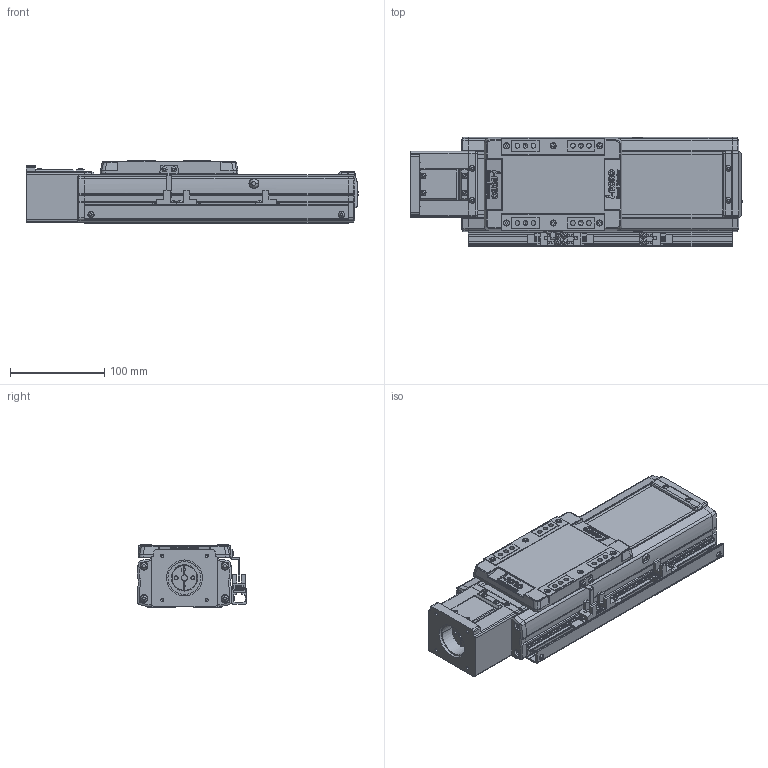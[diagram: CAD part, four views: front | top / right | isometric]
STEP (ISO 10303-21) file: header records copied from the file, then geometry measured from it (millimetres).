
FILE_DESCRIPTION(('STEP AP214'),'1');
FILE_NAME('Z:/Web/3D/SAN100/SAN100 양산용 (STEP)/SAN100ㅁㅁ-100S+3SR.stp','2013-04-24T06:07:46',(' '),(' '),'Spatial InterOp 3D',' ',' ');
FILE_SCHEMA(('automotive_design'));
Length unit declared in the file: millimetre
Products named in the file (64): EE-SX674; SBK-SX674-352; 스크루 : Round - M3.0 x 6.0; M3.0 x 6.0; SRL-16x17-380L; SGD-SAN100; 너트 : Square - M10.0 x 220.7419; RR1500-000L; 스크루 : Round - M4.0 x 10.0; FRCV-SAN100; SUS COVER; SFX-SAN100; RRCV-SAN100; FRBL-SAN100; SLBL-SAN100; SLCV-SAN100; 스크루 : Countersunk - M3.0 x 6.0; BASE; 스크루 : Round - M5.0 x 6.0; MTHZ-SAN100-S56A; SDA26C-8-6.35; SSFX-SAN65; CPLCV-SAN65
Bounding box: 352.5 x 116 x 66 mm (x, y, z)
Volume: 1177989 mm3; surface area: 359448.7 mm2
Topology: 64 solids, 65 shells, 2988 faces, 7812 edges, 5075 vertices
Faces by surface type: plane 1555, cylinder 1027, cone 257, sphere 76, torus 53, bspline 20
Entity records: 119260 total; most frequent: CARTESIAN_POINT 18537, DIRECTION 16528, ORIENTED_EDGE 15476, EDGE_CURVE 7738, AXIS2_PLACEMENT_3D 5957, VERTEX_POINT 5075, LINE 4614, VECTOR 4614
